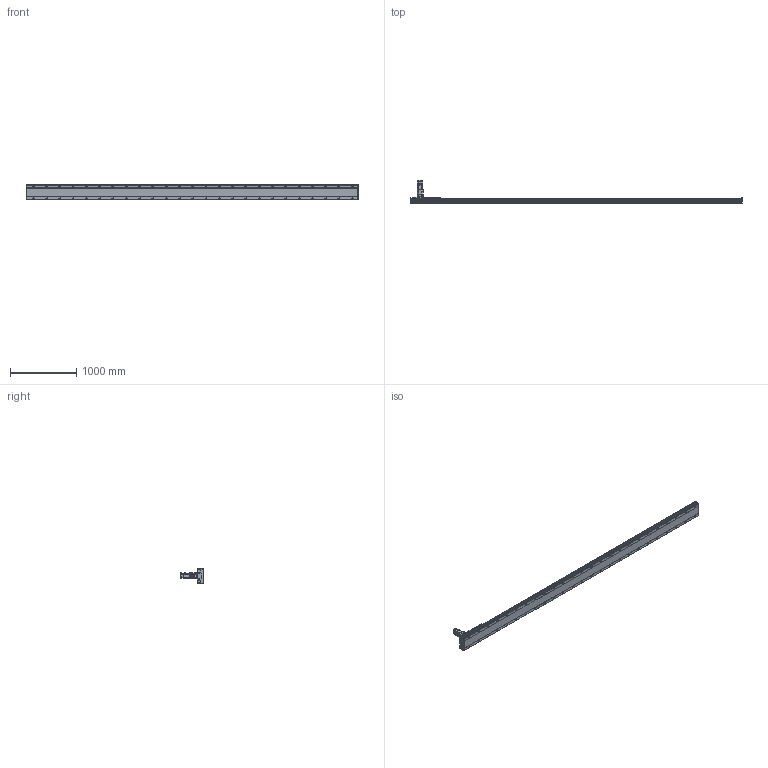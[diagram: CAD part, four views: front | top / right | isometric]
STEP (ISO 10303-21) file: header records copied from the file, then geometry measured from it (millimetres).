
FILE_DESCRIPTION(/* description */ ('STEP AP214'),/* implementation_level */ '2;1');
FILE_NAME(/* name */ 'SHS22A-L13-S4500-BC-T75-C1-N(0)',/* time_stamp */ '2022-06-15T02:28:55+02:00',/* author */ ('License CC BY-ND 4.0'),/* organization */ ('CADENAS'),/* preprocessor_version */ 'ST-DEVELOPER v18.102',/* originating_system */ 'PARTsolutions',/* authorisation */ ' ');
FILE_SCHEMA (('AUTOMOTIVE_DESIGN {1 0 10303 214 3 1 1}'));
Length unit declared in the file: millimetre
Products named in the file (7): SHS22A-L13-S4500-BC-T75-C1-N(0); PSC140-sensor; SHS22A-S4500_body2; T75-p1; SHS22A-S4500_body3; SHS22A-S4500_slider; SHS22A-L13-S4500-BC-T75-C1(0)_body
Assembly tree (13 placements, depth 2):
  SHS22A-L13-S4500-BC-T75-C1-N(0)
    PSC140-sensor  x3
    SHS22A-S4500_body2  x6
    T75-p1
    SHS22A-S4500_body3
    SHS22A-S4500_slider
    SHS22A-L13-S4500-BC-T75-C1(0)_body
Bounding box: 4994 x 350.8 x 238.4 mm (x, y, z)
Volume: 52948110.3 mm3; surface area: 5389830.1 mm2
Topology: 13 solids, 13 shells, 2001 faces, 5115 edges, 3346 vertices
Faces by surface type: plane 1380, cylinder 497, cone 115, torus 9
Full cylindrical faces by diameter (mm): 2.8 x3, 4.2 x2, 4.6 x3, 4.917 x4, 5 x4, 5.6 x24, 6 x31, 6.6 x24, 6.647 x8, 6.8 x9, 7.75 x6, 8 x3, 8.376 x50, 8.5 x50, 10 x4, 11 x4, 12 x24, 14 x50, 22 x1, 24.1 x1, 28 x1, 28.2 x1, 28.8 x1, 48.542 x1, 68 x1, 70 x1, 78 x1, 80 x2
Entity records: 34403 total; most frequent: CARTESIAN_POINT 6263, DIRECTION 5837, ORIENTED_EDGE 5160, EDGE_CURVE 2580, AXIS2_PLACEMENT_3D 2122, FACE_BOUND 1890, EDGE_LOOP 1889, VERTEX_POINT 1886
